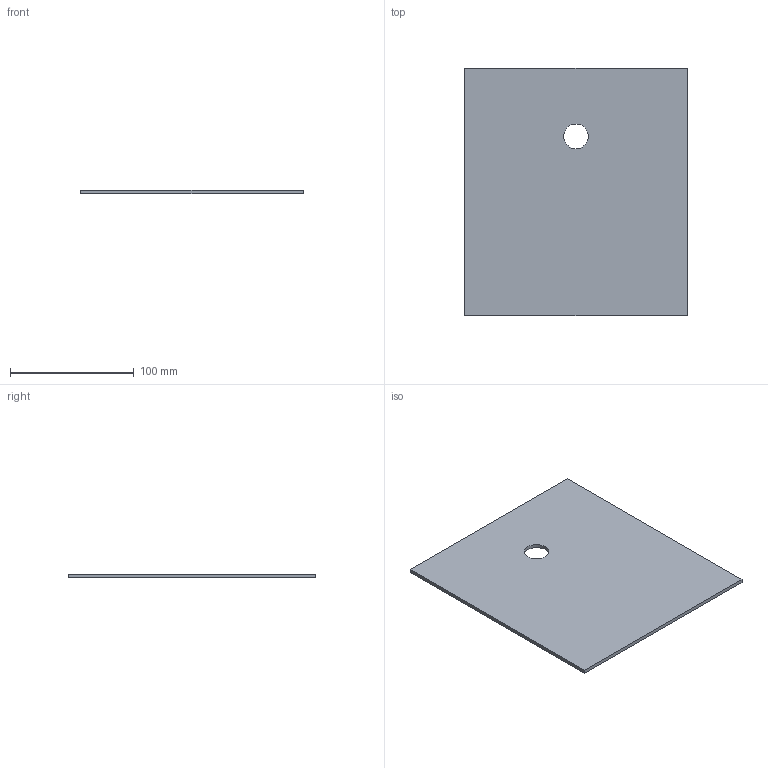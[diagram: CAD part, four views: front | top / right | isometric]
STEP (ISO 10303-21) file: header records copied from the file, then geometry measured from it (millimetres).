
FILE_DESCRIPTION(('Open CASCADE Model'),'2;1');
FILE_NAME('Open CASCADE Shape Model','2026-10-16T19:20:08',('Author'),( 'Open CASCADE'),'Open CASCADE STEP processor 7.8','Open CASCADE 7.8' ,'Unknown');
FILE_SCHEMA(('AUTOMOTIVE_DESIGN { 1 0 10303 214 1 1 1 1 }'));
Length unit declared in the file: millimetre
Products named in the file (1): Open CASCADE STEP translator 7.8 20
Bounding box: 180 x 200 x 3 mm (x, y, z)
Volume: 107057.5 mm3; surface area: 73840.2 mm2
Topology: 1 solids, 1 shells, 7 faces, 15 edges, 10 vertices
Faces by surface type: plane 6, cylinder 1
Full cylindrical faces by diameter (mm): 20 x1
Entity records: 406 total; most frequent: CARTESIAN_POINT 75, DIRECTION 61, LINE 41, VECTOR 41, ORIENTED_EDGE 30, PCURVE 30, DEFINITIONAL_REPRESENTATION 30, EDGE_CURVE 15
